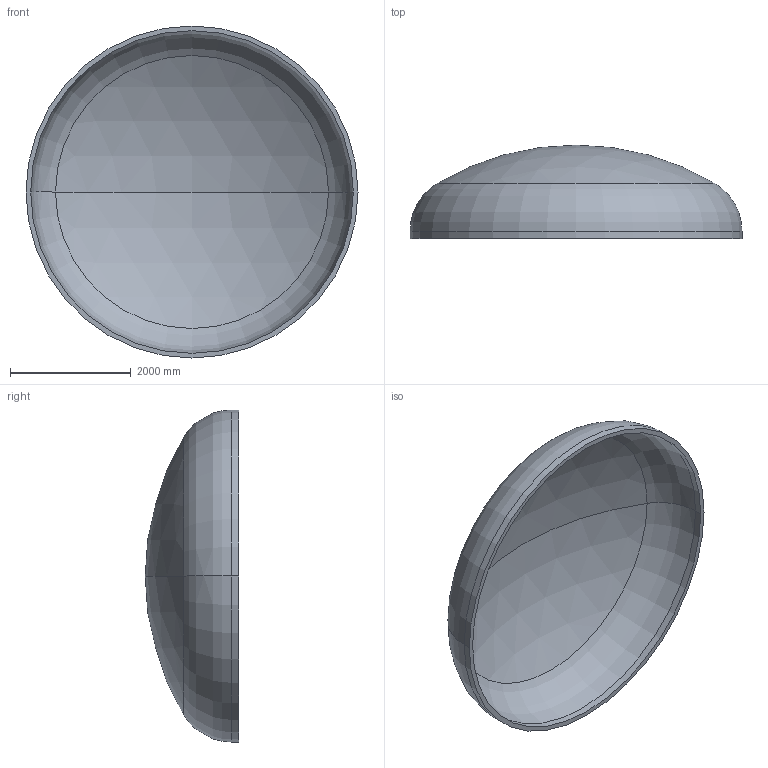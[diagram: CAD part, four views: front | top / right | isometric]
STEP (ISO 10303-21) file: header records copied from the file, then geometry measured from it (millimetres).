
FILE_DESCRIPTION (( 'STEP AP203' ), '1' );
FILE_NAME ('DIN 28013 Korbbogenform_-_Boden DIN 28013 - 5500 x 120 - I - s=78.step', '2016-07-04T10:34:49', ( '' ), ( '' ), 'SwSTEP 2.0', 'SolidWorks 2013', '' );
FILE_SCHEMA (( 'CONFIG_CONTROL_DESIGN' ));
Length unit declared in the file: millimetre
Products named in the file (1): DIN 28013 Korbbogenform_-_Boden DIN 28013 - 5500 x 120 - I - s=78
Bounding box: 5500 x 1548.39 x 5500 mm (x, y, z)
Volume: 2677205480.1 mm3; surface area: 69987641 mm2
Topology: 1 solids, 1 shells, 13 faces, 24 edges, 14 vertices
Faces by surface type: torus 4, cylinder 4, sphere 4, plane 1
Entity records: 407 total; most frequent: DIRECTION 72, CARTESIAN_POINT 52, ORIENTED_EDGE 48, AXIS2_PLACEMENT_3D 34, EDGE_CURVE 24, CIRCLE 20, VERTEX_POINT 14, EDGE_LOOP 14
